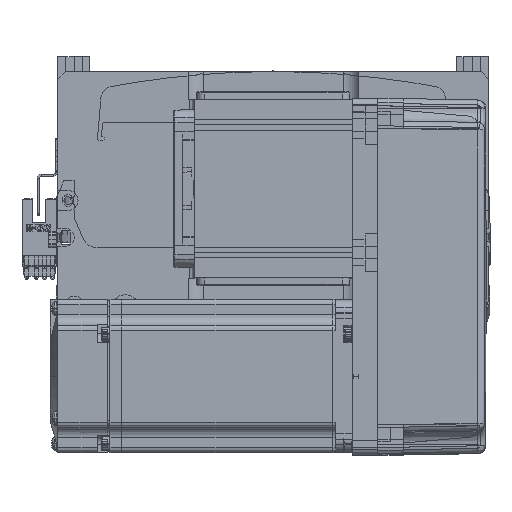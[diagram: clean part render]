
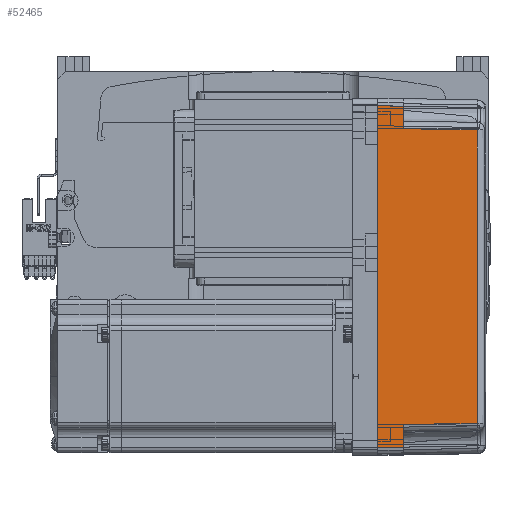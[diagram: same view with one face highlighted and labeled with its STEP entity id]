
A CAD part, top view. The second image highlights one B-rep face of the part: STEP entity #52465.
In plain terms, the highlighted planar face has unit normal (0.018, 0, 1) as drawn and (0, 1, 0.017) by its records, which use the part's own axes.
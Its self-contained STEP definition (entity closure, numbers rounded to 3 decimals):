
#1735 = EDGE_CURVE ( 'NONE', #7397, #15016, #24200, .T. ) ;
#1908 = CARTESIAN_POINT ( 'NONE',  ( -58., 35.825, 10. ) ) ;
#3916 = LINE ( 'NONE', #15266, #12280 ) ;
#3998 = DIRECTION ( 'NONE',  ( 0.017, 0.017, -1. ) ) ;
#4281 = VERTEX_POINT ( 'NONE', #11200 ) ;
#7397 = VERTEX_POINT ( 'NONE', #34327 ) ;
#8670 = VERTEX_POINT ( 'NONE', #29911 ) ;
#10017 = VECTOR ( 'NONE', #32630, 1000. ) ;
#11200 = CARTESIAN_POINT ( 'NONE',  ( 67., 36., 0. ) ) ;
#11644 = FACE_OUTER_BOUND ( 'NONE', #17430, .T. ) ;
#11813 = LINE ( 'NONE', #66029, #33514 ) ;
#12280 = VECTOR ( 'NONE', #36491, 1000. ) ;
#13881 = VERTEX_POINT ( 'NONE', #60088 ) ;
#15016 = VERTEX_POINT ( 'NONE', #42251 ) ;
#15266 = CARTESIAN_POINT ( 'NONE',  ( 70., 35.825, 10. ) ) ;
#15938 = CARTESIAN_POINT ( 'NONE',  ( 57.495, 35.32, 38.985 ) ) ;
#16130 = CARTESIAN_POINT ( 'NONE',  ( -67., 36., 0. ) ) ;
#17430 = EDGE_LOOP ( 'NONE', ( #32444, #41025, #18477, #41571, #38522, #54487, #60679, #26419 ) ) ;
#18031 = VERTEX_POINT ( 'NONE', #15938 ) ;
#18477 = ORIENTED_EDGE ( 'NONE', *, *, #35038, .T. ) ;
#18730 = VERTEX_POINT ( 'NONE', #26662 ) ;
#19189 = EDGE_CURVE ( 'NONE', #4281, #13881, #48048, .T. ) ;
#19347 = CARTESIAN_POINT ( 'NONE',  ( 67.001, 36.001, -0.052 ) ) ;
#21217 = CARTESIAN_POINT ( 'NONE',  ( -57.495, 35.32, 38.985 ) ) ;
#21600 = DIRECTION ( 'NONE',  ( 0., 1., 0.017 ) ) ;
#23309 = CARTESIAN_POINT ( 'NONE',  ( -58., 35.825, 10. ) ) ;
#23710 = LINE ( 'NONE', #26728, #32859 ) ;
#24200 = LINE ( 'NONE', #16130, #10017 ) ;
#26038 = EDGE_CURVE ( 'NONE', #7397, #4281, #23710, .T. ) ;
#26419 = ORIENTED_EDGE ( 'NONE', *, *, #26038, .F. ) ;
#26501 = DIRECTION ( 'NONE',  ( 1., 0., 0. ) ) ;
#26662 = CARTESIAN_POINT ( 'NONE',  ( 58., 35.825, 10. ) ) ;
#26728 = CARTESIAN_POINT ( 'NONE',  ( 0., 36., 0. ) ) ;
#28473 = CARTESIAN_POINT ( 'NONE',  ( -19.165, 35.316, 39.181 ) ) ;
#29911 = CARTESIAN_POINT ( 'NONE',  ( -57.495, 35.32, 38.985 ) ) ;
#30449 = B_SPLINE_CURVE_WITH_KNOTS ( 'NONE', 3,
 ( #21217, #28473, #48517, #67755 ),
 .UNSPECIFIED., .F., .F.,
 ( 4, 4 ),
 ( 0., 1. ),
 .UNSPECIFIED. ) ;
#32286 = CARTESIAN_POINT ( 'NONE',  ( 70., 36., 0. ) ) ;
#32444 = ORIENTED_EDGE ( 'NONE', *, *, #1735, .T. ) ;
#32630 = DIRECTION ( 'NONE',  ( 0.017, -0.017, 1. ) ) ;
#32859 = VECTOR ( 'NONE', #26501, 1000. ) ;
#33468 = DIRECTION ( 'NONE',  ( 0.017, -0.017, 1. ) ) ;
#33514 = VECTOR ( 'NONE', #65570, 1000. ) ;
#34083 = EDGE_CURVE ( 'NONE', #15016, #65938, #11813, .T. ) ;
#34327 = CARTESIAN_POINT ( 'NONE',  ( -67., 36., 0. ) ) ;
#35038 = EDGE_CURVE ( 'NONE', #65938, #8670, #41754, .T. ) ;
#36491 = DIRECTION ( 'NONE',  ( 1., 0., 0. ) ) ;
#38522 = ORIENTED_EDGE ( 'NONE', *, *, #43747, .T. ) ;
#41025 = ORIENTED_EDGE ( 'NONE', *, *, #34083, .T. ) ;
#41571 = ORIENTED_EDGE ( 'NONE', *, *, #43247, .T. ) ;
#41754 = LINE ( 'NONE', #1908, #66043 ) ;
#42251 = CARTESIAN_POINT ( 'NONE',  ( -66.826, 35.825, 10. ) ) ;
#42603 = DIRECTION ( 'NONE',  ( 0., -0.017, 1. ) ) ;
#43247 = EDGE_CURVE ( 'NONE', #8670, #18031, #30449, .T. ) ;
#43747 = EDGE_CURVE ( 'NONE', #18031, #18730, #59409, .T. ) ;
#48002 = PLANE ( 'NONE',  #58457 ) ;
#48048 = LINE ( 'NONE', #19347, #54733 ) ;
#48517 = CARTESIAN_POINT ( 'NONE',  ( 19.165, 35.316, 39.181 ) ) ;
#52451 = DIRECTION ( 'NONE',  ( -0.017, -0.017, 1. ) ) ;
#52465 = ADVANCED_FACE ( 'NONE', ( #11644 ), #48002, .T. ) ;
#54487 = ORIENTED_EDGE ( 'NONE', *, *, #62197, .T. ) ;
#54733 = VECTOR ( 'NONE', #52451, 1000. ) ;
#58457 = AXIS2_PLACEMENT_3D ( 'NONE', #32286, #21600, #42603 ) ;
#59409 = LINE ( 'NONE', #63154, #65278 ) ;
#60088 = CARTESIAN_POINT ( 'NONE',  ( 66.826, 35.825, 10. ) ) ;
#60679 = ORIENTED_EDGE ( 'NONE', *, *, #19189, .F. ) ;
#62197 = EDGE_CURVE ( 'NONE', #18730, #13881, #3916, .T. ) ;
#63154 = CARTESIAN_POINT ( 'NONE',  ( 57.495, 35.32, 38.985 ) ) ;
#65278 = VECTOR ( 'NONE', #3998, 1000. ) ;
#65570 = DIRECTION ( 'NONE',  ( 1., 0., 0. ) ) ;
#65938 = VERTEX_POINT ( 'NONE', #23309 ) ;
#66029 = CARTESIAN_POINT ( 'NONE',  ( 70., 35.825, 10. ) ) ;
#66043 = VECTOR ( 'NONE', #33468, 1000. ) ;
#67755 = CARTESIAN_POINT ( 'NONE',  ( 57.495, 35.32, 38.985 ) ) ;
